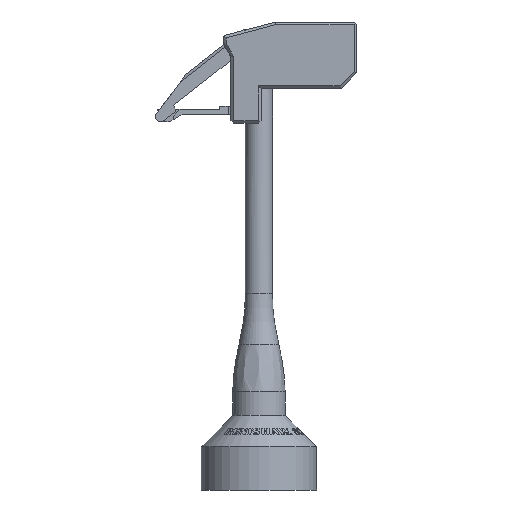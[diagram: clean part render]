
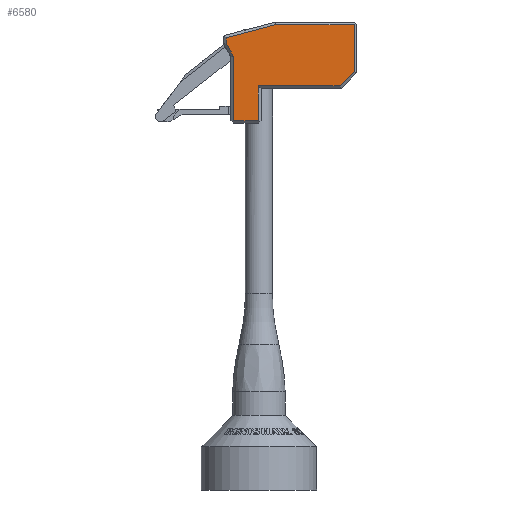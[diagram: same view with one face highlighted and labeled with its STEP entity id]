
A CAD part, left-side view. The second image highlights one B-rep face of the part: STEP entity #6580.
In plain terms, the highlighted planar face has unit normal (-1, 0, 0).
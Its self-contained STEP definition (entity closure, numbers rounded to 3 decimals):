
#6580=ADVANCED_FACE('',(#7830),#7212,.T.);
#7212=PLANE('',#22028);
#7830=FACE_OUTER_BOUND('',#8587,.T.);
#8587=EDGE_LOOP('',(#11414,#11415,#11416,#11417,#11418,#11419,#11420,#11421,
#11422,#11423));
#11414=ORIENTED_EDGE('',*,*,#17001,.T.);
#11415=ORIENTED_EDGE('',*,*,#17002,.T.);
#11416=ORIENTED_EDGE('',*,*,#17003,.T.);
#11417=ORIENTED_EDGE('',*,*,#17004,.T.);
#11418=ORIENTED_EDGE('',*,*,#17005,.T.);
#11419=ORIENTED_EDGE('',*,*,#17006,.T.);
#11420=ORIENTED_EDGE('',*,*,#17007,.T.);
#11421=ORIENTED_EDGE('',*,*,#17008,.T.);
#11422=ORIENTED_EDGE('',*,*,#17009,.T.);
#11423=ORIENTED_EDGE('',*,*,#17010,.T.);
#14942=VERTEX_POINT('',#30256);
#14943=VERTEX_POINT('',#30257);
#14944=VERTEX_POINT('',#30259);
#14945=VERTEX_POINT('',#30261);
#14946=VERTEX_POINT('',#30263);
#14947=VERTEX_POINT('',#30265);
#14948=VERTEX_POINT('',#30267);
#14949=VERTEX_POINT('',#30269);
#14950=VERTEX_POINT('',#30271);
#14951=VERTEX_POINT('',#30273);
#17001=EDGE_CURVE('',#14942,#14943,#18929,.T.);
#17002=EDGE_CURVE('',#14943,#14944,#18930,.T.);
#17003=EDGE_CURVE('',#14944,#14945,#18931,.T.);
#17004=EDGE_CURVE('',#14945,#14946,#18932,.T.);
#17005=EDGE_CURVE('',#14946,#14947,#18933,.T.);
#17006=EDGE_CURVE('',#14947,#14948,#18934,.T.);
#17007=EDGE_CURVE('',#14948,#14949,#18935,.T.);
#17008=EDGE_CURVE('',#14949,#14950,#18936,.T.);
#17009=EDGE_CURVE('',#14950,#14951,#18937,.T.);
#17010=EDGE_CURVE('',#14951,#14942,#18938,.T.);
#18929=LINE('',#30255,#20627);
#18930=LINE('',#30258,#20628);
#18931=LINE('',#30260,#20629);
#18932=LINE('',#30262,#20630);
#18933=LINE('',#30264,#20631);
#18934=LINE('',#30266,#20632);
#18935=LINE('',#30268,#20633);
#18936=LINE('',#30270,#20634);
#18937=LINE('',#30272,#20635);
#18938=LINE('',#30274,#20636);
#20627=VECTOR('',#24112,1.);
#20628=VECTOR('',#24113,1.);
#20629=VECTOR('',#24114,1.);
#20630=VECTOR('',#24115,1.);
#20631=VECTOR('',#24116,1.);
#20632=VECTOR('',#24117,1.);
#20633=VECTOR('',#24118,1.);
#20634=VECTOR('',#24119,1.);
#20635=VECTOR('',#24120,1.);
#20636=VECTOR('',#24121,1.);
#22028=AXIS2_PLACEMENT_3D('',#30275,#24122,#24123);
#24112=DIRECTION('',(0.,1.,0.));
#24113=DIRECTION('',(0.,0.966,-0.259));
#24114=DIRECTION('',(0.,0.,-1.));
#24115=DIRECTION('',(0.,-0.5,-0.866));
#24116=DIRECTION('',(0.,0.,-1.));
#24117=DIRECTION('',(0.,-1.,0.));
#24118=DIRECTION('',(0.,0.,1.));
#24119=DIRECTION('',(0.,-1.,0.));
#24120=DIRECTION('',(0.,-0.707,0.707));
#24121=DIRECTION('',(0.,0.,1.));
#24122=DIRECTION('',(-1.,0.,0.));
#24123=DIRECTION('',(0.,0.,1.));
#30255=CARTESIAN_POINT('',(-36.125,-2.,10.64));
#30256=CARTESIAN_POINT('',(-36.125,-23.55,10.64));
#30257=CARTESIAN_POINT('',(-36.125,13.985,10.64));
#30258=CARTESIAN_POINT('',(-36.125,38.326,4.118));
#30259=CARTESIAN_POINT('',(-36.125,37.4,4.366));
#30260=CARTESIAN_POINT('',(-36.125,37.4,-19.76));
#30261=CARTESIAN_POINT('',(-36.125,37.4,1.675));
#30262=CARTESIAN_POINT('',(-36.125,34.067,-4.097));
#30263=CARTESIAN_POINT('',(-36.125,33.9,-4.387));
#30264=CARTESIAN_POINT('',(-36.125,33.9,-19.76));
#30265=CARTESIAN_POINT('',(-36.125,33.9,-35.01));
#30266=CARTESIAN_POINT('',(-36.125,-2.,-35.01));
#30267=CARTESIAN_POINT('',(-36.125,22.05,-35.01));
#30268=CARTESIAN_POINT('',(-36.125,22.05,-19.76));
#30269=CARTESIAN_POINT('',(-36.125,22.05,-18.51));
#30270=CARTESIAN_POINT('',(-36.125,-2.,-18.51));
#30271=CARTESIAN_POINT('',(-36.125,-16.782,-18.51));
#30272=CARTESIAN_POINT('',(-36.125,-8.766,-26.526));
#30273=CARTESIAN_POINT('',(-36.125,-23.55,-11.742));
#30274=CARTESIAN_POINT('',(-36.125,-23.55,-19.76));
#30275=CARTESIAN_POINT('',(-36.125,-2.,-19.76));
